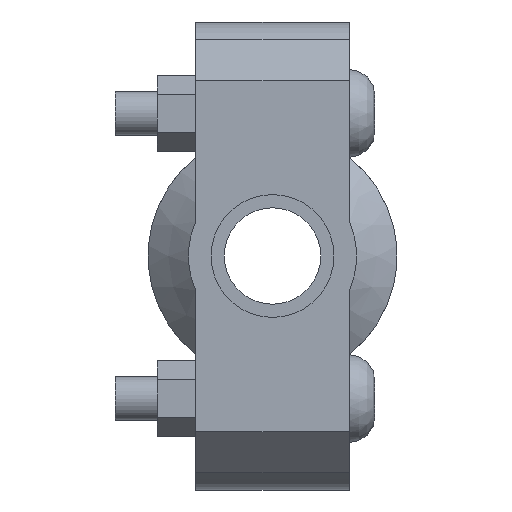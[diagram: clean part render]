
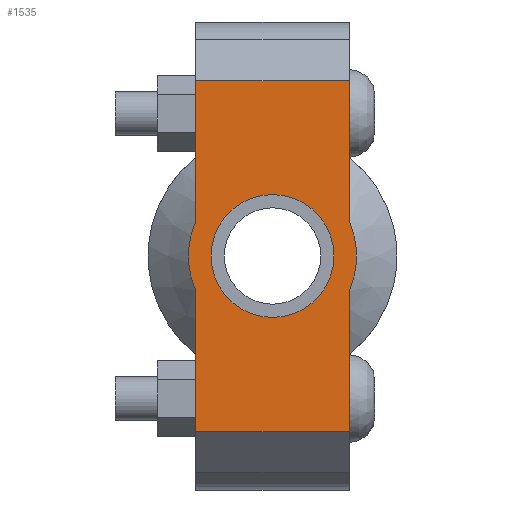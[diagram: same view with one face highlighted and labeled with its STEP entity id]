
A CAD part, left-side view. The second image highlights one B-rep face of the part: STEP entity #1535.
In plain terms, the highlighted planar face has unit normal (-1, 0, 0) as drawn and (0, 0, 1) by its records, which use the part's own axes.
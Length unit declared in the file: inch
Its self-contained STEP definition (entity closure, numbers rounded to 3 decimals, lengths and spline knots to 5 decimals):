
#146=LINE('',#2637,#241);
#161=LINE('',#2696,#256);
#169=LINE('',#2726,#264);
#171=LINE('',#2729,#266);
#172=LINE('',#2734,#267);
#173=LINE('',#2735,#268);
#241=VECTOR('',#2131,0.3937);
#256=VECTOR('',#2166,0.3937);
#264=VECTOR('',#2186,0.3937);
#266=VECTOR('',#2190,0.3937);
#267=VECTOR('',#2195,0.3937);
#268=VECTOR('',#2196,0.3937);
#328=FACE_BOUND('',#487,.T.);
#388=FACE_OUTER_BOUND('',#486,.T.);
#486=EDGE_LOOP('',(#1230,#1231,#1232,#1233,#1234,#1235,#1236,#1237));
#487=EDGE_LOOP('',(#1238));
#592=CIRCLE('',#1798,0.719);
#593=CIRCLE('',#1799,0.719);
#594=CIRCLE('',#1800,0.525);
#701=VERTEX_POINT('',#2634);
#702=VERTEX_POINT('',#2636);
#723=VERTEX_POINT('',#2691);
#724=VERTEX_POINT('',#2695);
#733=VERTEX_POINT('',#2721);
#734=VERTEX_POINT('',#2725);
#735=VERTEX_POINT('',#2731);
#736=VERTEX_POINT('',#2733);
#737=VERTEX_POINT('',#2737);
#871=EDGE_CURVE('',#702,#701,#146,.T.);
#896=EDGE_CURVE('',#724,#723,#161,.T.);
#909=EDGE_CURVE('',#734,#733,#169,.T.);
#911=EDGE_CURVE('',#734,#701,#171,.T.);
#912=EDGE_CURVE('',#733,#735,#592,.T.);
#913=EDGE_CURVE('',#735,#736,#172,.T.);
#914=EDGE_CURVE('',#724,#736,#173,.T.);
#915=EDGE_CURVE('',#723,#702,#593,.T.);
#916=EDGE_CURVE('',#737,#737,#594,.T.);
#1230=ORIENTED_EDGE('',*,*,#911,.F.);
#1231=ORIENTED_EDGE('',*,*,#909,.T.);
#1232=ORIENTED_EDGE('',*,*,#912,.T.);
#1233=ORIENTED_EDGE('',*,*,#913,.T.);
#1234=ORIENTED_EDGE('',*,*,#914,.F.);
#1235=ORIENTED_EDGE('',*,*,#896,.T.);
#1236=ORIENTED_EDGE('',*,*,#915,.T.);
#1237=ORIENTED_EDGE('',*,*,#871,.T.);
#1238=ORIENTED_EDGE('',*,*,#916,.T.);
#1387=PLANE('',#1797);
#1535=ADVANCED_FACE('',(#388,#328),#1387,.T.);
#1797=AXIS2_PLACEMENT_3D('',#2730,#2191,#2192);
#1798=AXIS2_PLACEMENT_3D('',#2732,#2193,#2194);
#1799=AXIS2_PLACEMENT_3D('',#2736,#2197,#2198);
#1800=AXIS2_PLACEMENT_3D('',#2738,#2199,#2200);
#2131=DIRECTION('',(1.,0.,0.));
#2166=DIRECTION('',(1.,0.,0.));
#2186=DIRECTION('',(-1.,0.,0.));
#2190=DIRECTION('',(0.,-1.,0.));
#2191=DIRECTION('center_axis',(0.,0.,1.));
#2192=DIRECTION('ref_axis',(-1.,0.,0.));
#2193=DIRECTION('center_axis',(0.,0.,1.));
#2194=DIRECTION('ref_axis',(1.,0.,0.));
#2195=DIRECTION('',(-1.,0.,0.));
#2196=DIRECTION('',(0.,1.,0.));
#2197=DIRECTION('center_axis',(0.,0.,1.));
#2198=DIRECTION('ref_axis',(1.,0.,0.));
#2199=DIRECTION('center_axis',(0.,0.,-1.));
#2200=DIRECTION('ref_axis',(1.,0.,0.));
#2634=CARTESIAN_POINT('',(1.5,-0.656,0.875));
#2636=CARTESIAN_POINT('',(0.29432,-0.656,0.875));
#2637=CARTESIAN_POINT('',(-2.,-0.656,0.875));
#2691=CARTESIAN_POINT('',(-0.29432,-0.656,0.875));
#2695=CARTESIAN_POINT('',(-1.5,-0.656,0.875));
#2696=CARTESIAN_POINT('',(-2.,-0.656,0.875));
#2721=CARTESIAN_POINT('',(0.29432,0.656,0.875));
#2725=CARTESIAN_POINT('',(1.5,0.656,0.875));
#2726=CARTESIAN_POINT('',(2.,0.656,0.875));
#2729=CARTESIAN_POINT('',(1.5,-0.328,0.875));
#2730=CARTESIAN_POINT('Origin',(0.,0.,
0.875));
#2731=CARTESIAN_POINT('',(-0.29432,0.656,0.875));
#2732=CARTESIAN_POINT('Origin',(0.,0.,0.875));
#2733=CARTESIAN_POINT('',(-1.5,0.656,0.875));
#2734=CARTESIAN_POINT('',(2.,0.656,0.875));
#2735=CARTESIAN_POINT('',(-1.5,0.328,0.875));
#2736=CARTESIAN_POINT('Origin',(0.,0.,0.875));
#2737=CARTESIAN_POINT('',(-0.525,0.,0.875));
#2738=CARTESIAN_POINT('Origin',(0.,0.,0.875));
